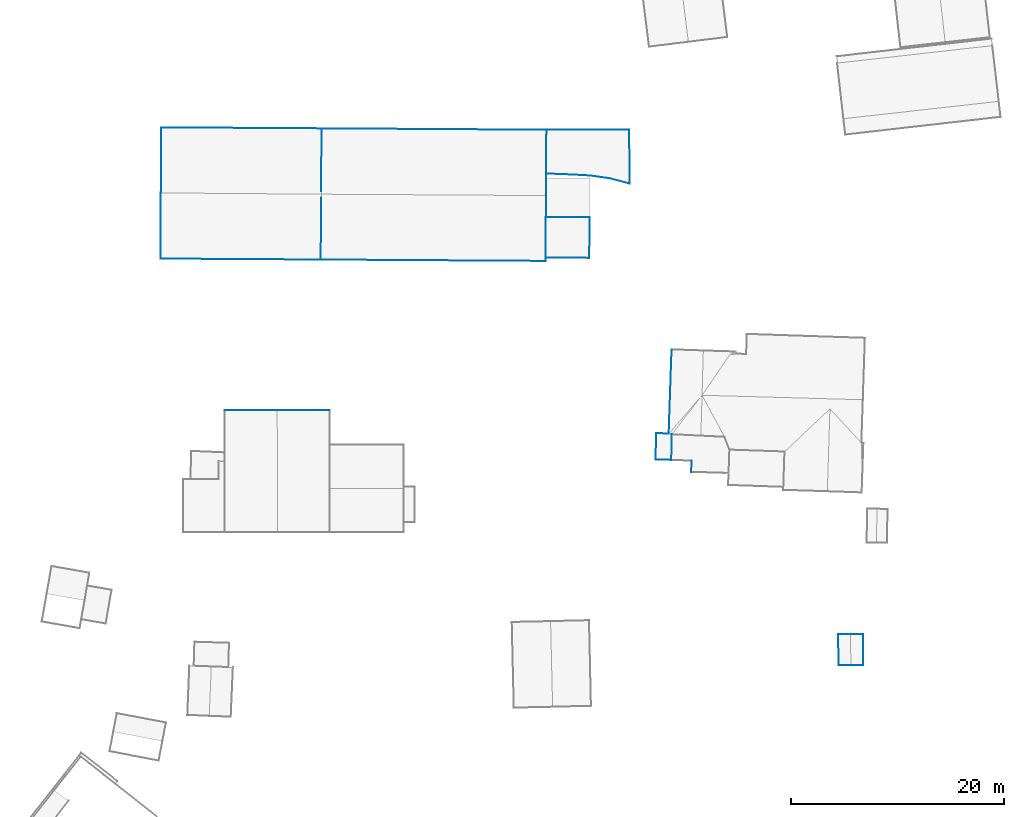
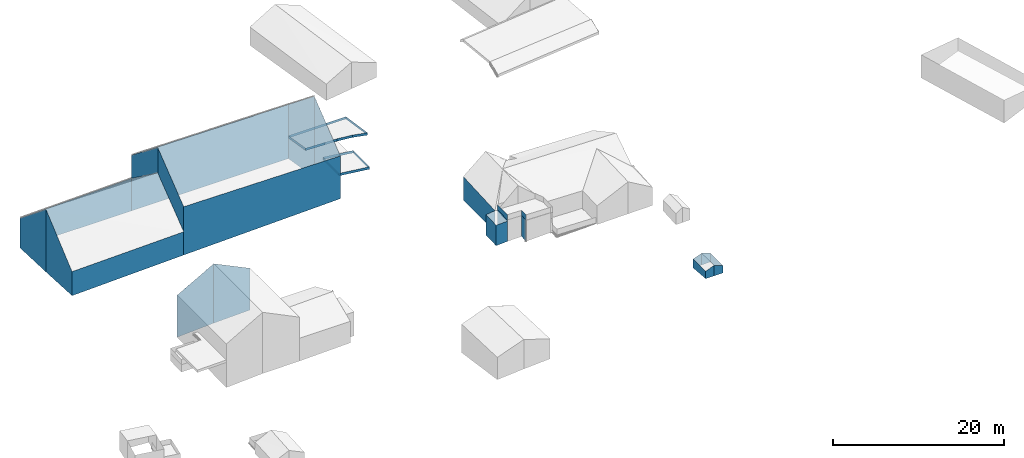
# Not in any storey, part 9 of 59: 50 walls.
"""IFC4 building model written with IfcOpenShell, lengths in metres."""

from ifc_helpers import new_model, entity, si_unit, converted_unit, frame, origin, place, context, subcontext, project, spatial, face_set, surface_model, element, save


model = new_model("IFC4")

# Units and contexts
model_context = context("Model", 3, precision=1e-05, world=origin())
body_context = subcontext(model_context, "Body", "Model", "MODEL_VIEW")
ifc_project = project(units=[converted_unit("PLANEANGLEUNIT", "DEGREE", entity("IfcRatioMeasure", 0.0174532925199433), si_unit("PLANEANGLEUNIT", "RADIAN"), dimensions=[0, 0, 0, 0, 0, 0, 0]), si_unit("AREAUNIT", "SQUARE_METRE"), si_unit("LENGTHUNIT", "METRE")], contexts=[model_context])

# Site, building
site_placement = place(None, origin())
site = spatial("IfcSite", under=ifc_project, at=site_placement, Name="_site")
building_1_placement = place(site_placement, origin())
building_1 = spatial("IfcBuilding", under=site, at=building_1_placement, Name="_building")

# Walls
wall_1_placement = place(building_1_placement, origin())
element("IfcWall", 1, at=wall_1_placement, inside=building_1, Name="Wall", PredefinedType="NOTDEFINED", context=body_context, shape_type="SurfaceModel", body=[
    surface_model("IfcFaceBasedSurfaceModel", [(102.35, 120.92, 215.69), (98.26, 120.939, 216.16), (98.26, 120.939, 215.81), (102.35, 120.92, 215.34)], [face_set([[[0, 1, 2, 3]]])]),
])
wall_2_placement = place(building_1_placement, origin())
element("IfcWall", 2, at=wall_2_placement, inside=building_1, Name="Wall", PredefinedType="NOTDEFINED", context=body_context, shape_type="SurfaceModel", body=[
    surface_model("IfcFaceBasedSurfaceModel", [(98.28, 124.76, 216.16), (102.37, 124.74, 215.69), (102.37, 124.74, 215.34), (98.28, 124.76, 215.81)], [face_set([[[0, 1, 2, 3]]])]),
])
wall_3_placement = place(building_1_placement, origin())
element("IfcWall", 3, at=wall_3_placement, inside=building_1, Name="Wall", PredefinedType="NOTDEFINED", context=body_context, shape_type="SurfaceModel", body=[
    surface_model("IfcFaceBasedSurfaceModel", [(102.35, 120.92, 215.69), (98.26, 120.939, 216.16), (98.26, 120.939, 215.81), (102.35, 120.92, 215.34)], [face_set([[[0, 1, 2, 3]]])]),
])
wall_4_placement = place(building_1_placement, origin())
element("IfcWall", 4, at=wall_4_placement, inside=building_1, Name="Wall", PredefinedType="NOTDEFINED", context=body_context, shape_type="SurfaceModel", body=[
    surface_model("IfcFaceBasedSurfaceModel", [(98.28, 124.76, 216.16), (102.37, 124.74, 215.69), (102.37, 124.74, 215.34), (98.28, 124.76, 215.81)], [face_set([[[0, 1, 2, 3]]])]),
])
for number, where, name in (
    (5, (0.0, 0.0, 0.0), "Wall"),
    (6, (0.0, 0.0, 0.0), "Wall"),
):
    element("IfcWall", number, at=place(building_1_placement, frame(where)), inside=building_1, Name=name, PredefinedType="NOTDEFINED", context=body_context, shape_type="SurfaceModel", body=[
        surface_model("IfcFaceBasedSurfaceModel", [(102.37, 124.74, 215.69), (102.35, 120.92, 215.69), (102.35, 120.92, 215.34), (102.37, 124.74, 215.34)], [face_set([[[0, 1, 2, 3]]])]),
    ])

# Building
building_2_placement = place(site_placement, origin())
building_2 = spatial("IfcBuilding", under=site, at=building_2_placement, Name="_building")

# Walls
wall_5_placement = place(building_2_placement, origin())
element("IfcWall", 7, at=wall_5_placement, inside=building_2, Name="Wall", PredefinedType="NOTDEFINED", context=body_context, shape_type="SurfaceModel", body=[
    surface_model("IfcFaceBasedSurfaceModel", [(73.1, 106.66, 220.74), (78.03, 106.67, 218.36), (78.03, 106.67, 212.408), (73.1, 106.66, 212.257)], [face_set([[[0, 1, 2, 3]]])]),
])
wall_6_placement = place(building_2_placement, origin())
element("IfcWall", 8, at=wall_6_placement, inside=building_2, Name="Wall", PredefinedType="NOTDEFINED", context=body_context, shape_type="SurfaceModel", body=[
    surface_model("IfcFaceBasedSurfaceModel", [(68.17, 106.66, 217.98), (73.1, 106.66, 220.74), (73.1, 106.66, 212.257), (68.17, 106.66, 211.976)], [face_set([[[0, 1, 2, 3]]])]),
])

# Building
building_3_placement = place(site_placement, origin())
building_3 = spatial("IfcBuilding", under=site, at=building_3_placement, Name="_building")

# Walls
wall_7_placement = place(building_3_placement, origin())
element("IfcWall", 9, at=wall_7_placement, inside=building_3, Name="Wall", PredefinedType="NOTDEFINED", context=body_context, shape_type="SurfaceModel", body=[
    surface_model("IfcFaceBasedSurfaceModel", [(110.03, 101.99, 216.89), (110.07, 104.391, 216.89), (110.07, 104.391, 217.64), (110.03, 101.99, 217.64)], [face_set([[[0, 1, 2, 3]]])]),
])
wall_8_placement = place(building_3_placement, origin())
element("IfcWall", 10, at=wall_8_placement, inside=building_3, Name="Wall", PredefinedType="NOTDEFINED", context=body_context, shape_type="SurfaceModel", body=[
    surface_model("IfcFaceBasedSurfaceModel", [(111.9, 100.869, 216.89), (111.93, 101.92, 216.89), (111.93, 101.92, 217.64), (111.9, 100.869, 217.64)], [face_set([[[0, 1, 2, 3]]])]),
])
wall_9_placement = place(building_3_placement, origin())
element("IfcWall", 11, at=wall_9_placement, inside=building_3, Name="Wall", PredefinedType="NOTDEFINED", context=body_context, shape_type="SurfaceModel", body=[
    surface_model("IfcFaceBasedSurfaceModel", [(110.03, 101.99, 216.89), (110.07, 104.391, 216.89), (110.07, 104.391, 217.64), (110.03, 101.99, 217.64)], [face_set([[[0, 1, 2, 3]]])]),
])
wall_10_placement = place(building_3_placement, origin())
element("IfcWall", 12, at=wall_10_placement, inside=building_3, Name="Wall", PredefinedType="NOTDEFINED", context=body_context, shape_type="SurfaceModel", body=[
    surface_model("IfcFaceBasedSurfaceModel", [(111.9, 100.869, 216.89), (111.93, 101.92, 216.89), (111.93, 101.92, 217.64), (111.9, 100.869, 217.64)], [face_set([[[0, 1, 2, 3]]])]),
])
wall_11_placement = place(building_3_placement, origin())
element("IfcWall", 13, at=wall_11_placement, inside=building_3, Name="Wall", PredefinedType="NOTDEFINED", context=body_context, shape_type="SurfaceModel", body=[
    surface_model("IfcFaceBasedSurfaceModel", [(111.9, 100.869, 216.89), (111.93, 101.92, 216.89), (111.93, 101.92, 213.915), (111.9, 100.869, 213.85)], [face_set([[[0, 1, 2, 3]]])]),
])
wall_12_placement = place(building_3_placement, origin())
element("IfcWall", 14, at=wall_12_placement, inside=building_3, Name="Wall", PredefinedType="NOTDEFINED", context=body_context, shape_type="SurfaceModel", body=[
    surface_model("IfcFaceBasedSurfaceModel", [(110.03, 101.99, 216.89), (110.07, 104.391, 216.89), (110.07, 104.391, 213.774), (110.03, 101.99, 213.82)], [face_set([[[0, 1, 2, 3]]])]),
])
wall_13_placement = place(building_3_placement, origin())
element("IfcWall", 15, at=wall_13_placement, inside=building_3, Name="Wall", PredefinedType="NOTDEFINED", context=body_context, shape_type="SurfaceModel", body=[
    surface_model("IfcFaceBasedSurfaceModel", [(108.63, 104.5, 216.61), (109.79, 104.461, 216.79), (109.79, 104.461, 213.747), (108.63, 104.5, 213.645)], [face_set([[[0, 1, 2, 3]]])]),
])
wall_14_placement = place(building_3_placement, origin())
element("IfcWall", 16, at=wall_14_placement, inside=building_3, Name="Wall", PredefinedType="NOTDEFINED", context=body_context, shape_type="SurfaceModel", body=[
    surface_model("IfcFaceBasedSurfaceModel", [(110.03, 101.99, 216.71), (108.55, 102.039, 216.61), (108.55, 102.039, 213.706), (110.03, 101.99, 213.82)], [face_set([[[0, 1, 2, 3]]])]),
])
wall_15_placement = place(building_3_placement, origin())
element("IfcWall", 17, at=wall_15_placement, inside=building_3, Name="Wall", PredefinedType="NOTDEFINED", context=body_context, shape_type="SurfaceModel", body=[
    surface_model("IfcFaceBasedSurfaceModel", [(108.55, 102.039, 216.61), (108.63, 104.5, 216.61), (108.63, 104.5, 213.645), (108.55, 102.039, 213.706)], [face_set([[[0, 1, 2, 3]]])]),
])
wall_16_placement = place(building_3_placement, origin())
element("IfcWall", 18, at=wall_16_placement, inside=building_3, Name="Wall", PredefinedType="NOTDEFINED", context=body_context, shape_type="SurfaceModel", body=[
    surface_model("IfcFaceBasedSurfaceModel", [(109.79, 104.461, 216.79), (110.06, 112.34, 216.8), (110.06, 112.34, 213.446), (109.79, 104.461, 213.747)], [face_set([[[0, 1, 2, 3]]])]),
])

# Building
building_4_placement = place(site_placement, origin())
building_4 = spatial("IfcBuilding", under=site, at=building_4_placement, Name="_building")

# Walls
wall_17_placement = place(building_4_placement, origin())
element("IfcWall", 19, at=wall_17_placement, inside=building_4, Name="Wall", PredefinedType="NOTDEFINED", context=body_context, shape_type="SurfaceModel", body=[
    surface_model("IfcFaceBasedSurfaceModel", [(77.23, 126.9, 223.6), (77.26, 133.051, 218.77), (77.26, 133.051, 215.48), (77.23, 126.9, 219.97)], [face_set([[[0, 1, 2, 3]]])]),
])
wall_18_placement = place(building_4_placement, origin())
element("IfcWall", 20, at=wall_18_placement, inside=building_4, Name="Wall", PredefinedType="NOTDEFINED", context=body_context, shape_type="SurfaceModel", body=[
    surface_model("IfcFaceBasedSurfaceModel", [(77.19, 120.76, 218.89), (77.23, 126.9, 223.6), (77.23, 126.9, 219.97), (77.19, 120.76, 215.32)], [face_set([[[0, 1, 2, 3]]])]),
])
wall_19_placement = place(building_4_placement, origin())
element("IfcWall", 21, at=wall_19_placement, inside=building_4, Name="Wall", PredefinedType="NOTDEFINED", context=body_context, shape_type="SurfaceModel", body=[
    surface_model("IfcFaceBasedSurfaceModel", [(98.29, 126.77, 223.61), (98.26, 120.631, 218.84), (98.26, 120.631, 212.747), (98.29, 126.77, 212.027)], [face_set([[[0, 1, 2, 3]]])]),
])
wall_20_placement = place(building_4_placement, origin())
element("IfcWall", 22, at=wall_20_placement, inside=building_4, Name="Wall", PredefinedType="NOTDEFINED", context=body_context, shape_type="SurfaceModel", body=[
    surface_model("IfcFaceBasedSurfaceModel", [(98.33, 132.92, 218.71), (98.29, 126.77, 223.61), (98.29, 126.77, 212.027), (98.33, 132.92, 210.987)], [face_set([[[0, 1, 2, 3]]])]),
])
for number, where, name in (
    (23, (0.0, 0.0, 0.0), "Wall"),
    (24, (0.0, 0.0, 0.0), "Wall"),
):
    element("IfcWall", number, at=place(building_4_placement, frame(where)), inside=building_4, Name=name, PredefinedType="NOTDEFINED", context=body_context, shape_type="SurfaceModel", body=[
        surface_model("IfcFaceBasedSurfaceModel", [(98.26, 120.939, 216.16), (98.28, 124.76, 216.16), (98.28, 124.76, 215.81), (98.26, 120.939, 215.81)], [face_set([[[0, 1, 2, 3]]])]),
    ])
wall_21_placement = place(building_4_placement, origin())
element("IfcWall", 25, at=wall_21_placement, inside=building_4, Name="Wall", PredefinedType="NOTDEFINED", context=body_context, shape_type="SurfaceModel", body=[
    surface_model("IfcFaceBasedSurfaceModel", [(62.17, 120.85, 214.83), (62.21, 127.02, 219.97), (62.21, 127.02, 211.031), (62.17, 120.85, 211.4)], [face_set([[[0, 1, 2, 3]]])]),
])
wall_22_placement = place(building_4_placement, origin())
element("IfcWall", 26, at=wall_22_placement, inside=building_4, Name="Wall", PredefinedType="NOTDEFINED", context=body_context, shape_type="SurfaceModel", body=[
    surface_model("IfcFaceBasedSurfaceModel", [(98.26, 120.631, 218.84), (77.19, 120.76, 218.89), (77.19, 120.76, 211.997), (98.26, 120.631, 212.747)], [face_set([[[0, 1, 2, 3]]])]),
])
wall_23_placement = place(building_4_placement, origin())
element("IfcWall", 27, at=wall_23_placement, inside=building_4, Name="Wall", PredefinedType="NOTDEFINED", context=body_context, shape_type="SurfaceModel", body=[
    surface_model("IfcFaceBasedSurfaceModel", [(62.21, 127.02, 219.97), (62.24, 133.141, 215.0), (62.24, 133.141, 210.751), (62.21, 127.02, 211.031)], [face_set([[[0, 1, 2, 3]]])]),
])
wall_24_placement = place(building_4_placement, origin())
element("IfcWall", 28, at=wall_24_placement, inside=building_4, Name="Wall", PredefinedType="NOTDEFINED", context=body_context, shape_type="SurfaceModel", body=[
    surface_model("IfcFaceBasedSurfaceModel", [(77.26, 133.051, 218.77), (98.33, 132.92, 218.71), (98.33, 132.92, 210.987), (77.26, 133.051, 210.815)], [face_set([[[0, 1, 2, 3]]])]),
])
for number, where, name in (
    (29, (0.0, 0.0, 0.0), "Wall"),
    (30, (0.0, 0.0, 0.0), "Wall"),
):
    element("IfcWall", number, at=place(building_4_placement, frame(where)), inside=building_4, Name=name, PredefinedType="NOTDEFINED", context=body_context, shape_type="SurfaceModel", body=[
        surface_model("IfcFaceBasedSurfaceModel", [(98.3, 128.82, 214.97), (98.33, 132.92, 214.26), (98.33, 132.92, 213.91), (98.3, 128.82, 214.62)], [face_set([[[0, 1, 2, 3]]])]),
    ])
wall_25_placement = place(building_4_placement, origin())
element("IfcWall", 31, at=wall_25_placement, inside=building_4, Name="Wall", PredefinedType="NOTDEFINED", context=body_context, shape_type="SurfaceModel", body=[
    surface_model("IfcFaceBasedSurfaceModel", [(77.19, 120.76, 215.32), (62.17, 120.85, 214.83), (62.17, 120.85, 211.4), (77.19, 120.76, 211.997)], [face_set([[[0, 1, 2, 3]]])]),
])
wall_26_placement = place(building_4_placement, origin())
element("IfcWall", 32, at=wall_26_placement, inside=building_4, Name="Wall", PredefinedType="NOTDEFINED", context=body_context, shape_type="SurfaceModel", body=[
    surface_model("IfcFaceBasedSurfaceModel", [(62.24, 133.141, 215.0), (77.26, 133.051, 215.48), (77.26, 133.051, 210.815), (62.24, 133.141, 210.751)], [face_set([[[0, 1, 2, 3]]])]),
])

# Building
building_5_placement = place(site_placement, origin())
building_5 = spatial("IfcBuilding", under=site, at=building_5_placement, Name="_building")

# Walls
wall_27_placement = place(building_5_placement, origin())
element("IfcWall", 33, at=wall_27_placement, inside=building_5, Name="Wall", PredefinedType="NOTDEFINED", context=body_context, shape_type="SurfaceModel", body=[
    surface_model("IfcFaceBasedSurfaceModel", [(126.84, 82.76, 216.18), (125.69, 82.75, 215.75), (125.69, 82.75, 214.696), (126.84, 82.76, 214.691)], [face_set([[[0, 1, 2, 3]]])]),
])
wall_28_placement = place(building_5_placement, origin())
element("IfcWall", 34, at=wall_28_placement, inside=building_5, Name="Wall", PredefinedType="NOTDEFINED", context=body_context, shape_type="SurfaceModel", body=[
    surface_model("IfcFaceBasedSurfaceModel", [(128.02, 82.76, 215.75), (126.84, 82.76, 216.18), (126.84, 82.76, 214.691), (128.02, 82.76, 214.679)], [face_set([[[0, 1, 2, 3]]])]),
])
wall_29_placement = place(building_5_placement, origin())
element("IfcWall", 35, at=wall_29_placement, inside=building_5, Name="Wall", PredefinedType="NOTDEFINED", context=body_context, shape_type="SurfaceModel", body=[
    surface_model("IfcFaceBasedSurfaceModel", [(126.82, 85.65, 216.18), (128.01, 85.66, 215.75), (128.01, 85.66, 214.503), (126.82, 85.65, 214.488)], [face_set([[[0, 1, 2, 3]]])]),
])
wall_30_placement = place(building_5_placement, origin())
element("IfcWall", 36, at=wall_30_placement, inside=building_5, Name="Wall", PredefinedType="NOTDEFINED", context=body_context, shape_type="SurfaceModel", body=[
    surface_model("IfcFaceBasedSurfaceModel", [(125.68, 85.65, 215.75), (126.82, 85.65, 216.18), (126.82, 85.65, 214.488), (125.68, 85.65, 214.476)], [face_set([[[0, 1, 2, 3]]])]),
])
wall_31_placement = place(building_5_placement, origin())
element("IfcWall", 37, at=wall_31_placement, inside=building_5, Name="Wall", PredefinedType="NOTDEFINED", context=body_context, shape_type="SurfaceModel", body=[
    surface_model("IfcFaceBasedSurfaceModel", [(128.01, 85.66, 215.75), (128.02, 82.76, 215.75), (128.02, 82.76, 214.679), (128.01, 85.66, 214.503)], [face_set([[[0, 1, 2, 3]]])]),
])
wall_32_placement = place(building_5_placement, origin())
element("IfcWall", 38, at=wall_32_placement, inside=building_5, Name="Wall", PredefinedType="NOTDEFINED", context=body_context, shape_type="SurfaceModel", body=[
    surface_model("IfcFaceBasedSurfaceModel", [(125.69, 82.75, 215.75), (125.68, 85.65, 215.75), (125.68, 85.65, 214.476), (125.69, 82.75, 214.696)], [face_set([[[0, 1, 2, 3]]])]),
])

# Building
building_6_placement = place(site_placement, origin())
building_6 = spatial("IfcBuilding", under=site, at=building_6_placement, Name="_building")

# Walls
for number, where, name in (
    (39, (0.0, 0.0, 0.0), "Wall"),
    (40, (0.0, 0.0, 0.0), "Wall"),
):
    element("IfcWall", number, at=place(building_6_placement, frame(where)), inside=building_6, Name=name, PredefinedType="NOTDEFINED", context=body_context, shape_type="SurfaceModel", body=[
        surface_model("IfcFaceBasedSurfaceModel", [(106.11, 127.881, 215.01), (104.33, 128.359, 215.01), (104.33, 128.359, 214.66), (106.11, 127.881, 214.66)], [face_set([[[0, 1, 2, 3]]])]),
    ])
for number, where, name in (
    (41, (0.0, 0.0, 0.0), "Wall"),
    (42, (0.0, 0.0, 0.0), "Wall"),
):
    element("IfcWall", number, at=place(building_6_placement, frame(where)), inside=building_6, Name=name, PredefinedType="NOTDEFINED", context=body_context, shape_type="SurfaceModel", body=[
        surface_model("IfcFaceBasedSurfaceModel", [(104.33, 128.359, 215.01), (102.45, 128.631, 214.98), (102.45, 128.631, 214.63), (104.33, 128.359, 214.66)], [face_set([[[0, 1, 2, 3]]])]),
    ])
for number, where, name in (
    (43, (0.0, 0.0, 0.0), "Wall"),
    (44, (0.0, 0.0, 0.0), "Wall"),
):
    element("IfcWall", number, at=place(building_6_placement, frame(where)), inside=building_6, Name=name, PredefinedType="NOTDEFINED", context=body_context, shape_type="SurfaceModel", body=[
        surface_model("IfcFaceBasedSurfaceModel", [(102.45, 128.631, 214.98), (100.86, 128.721, 214.97), (100.86, 128.721, 214.62), (102.45, 128.631, 214.63)], [face_set([[[0, 1, 2, 3]]])]),
    ])
for number, where, name in (
    (45, (0.0, 0.0, 0.0), "Wall"),
    (46, (0.0, 0.0, 0.0), "Wall"),
):
    element("IfcWall", number, at=place(building_6_placement, frame(where)), inside=building_6, Name=name, PredefinedType="NOTDEFINED", context=body_context, shape_type="SurfaceModel", body=[
        surface_model("IfcFaceBasedSurfaceModel", [(100.86, 128.721, 214.97), (98.3, 128.82, 214.97), (98.3, 128.82, 214.62), (100.86, 128.721, 214.62)], [face_set([[[0, 1, 2, 3]]])]),
    ])
for number, where, name in (
    (47, (0.0, 0.0, 0.0), "Wall"),
    (48, (0.0, 0.0, 0.0), "Wall"),
):
    element("IfcWall", number, at=place(building_6_placement, frame(where)), inside=building_6, Name=name, PredefinedType="NOTDEFINED", context=body_context, shape_type="SurfaceModel", body=[
        surface_model("IfcFaceBasedSurfaceModel", [(106.1, 132.92, 214.26), (106.11, 127.881, 215.01), (106.11, 127.881, 214.66), (106.1, 132.92, 213.91)], [face_set([[[0, 1, 2, 3]]])]),
    ])
for number, where, name in (
    (49, (0.0, 0.0, 0.0), "Wall"),
    (50, (0.0, 0.0, 0.0), "Wall"),
):
    element("IfcWall", number, at=place(building_6_placement, frame(where)), inside=building_6, Name=name, PredefinedType="NOTDEFINED", context=body_context, shape_type="SurfaceModel", body=[
        surface_model("IfcFaceBasedSurfaceModel", [(98.33, 132.92, 214.26), (106.1, 132.92, 214.26), (106.1, 132.92, 213.91), (98.33, 132.92, 213.91)], [face_set([[[0, 1, 2, 3]]])]),
    ])

save(model, "model.ifc")
